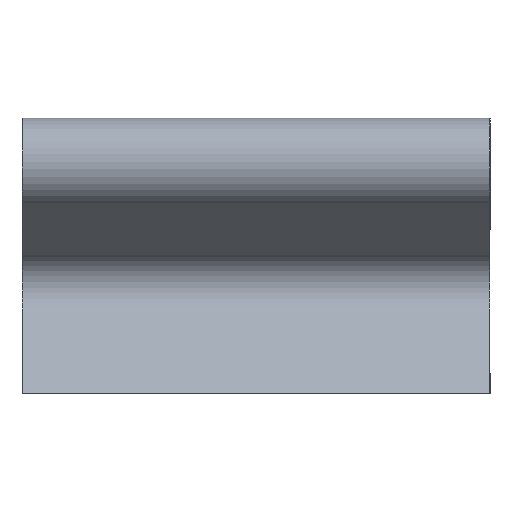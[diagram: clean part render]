
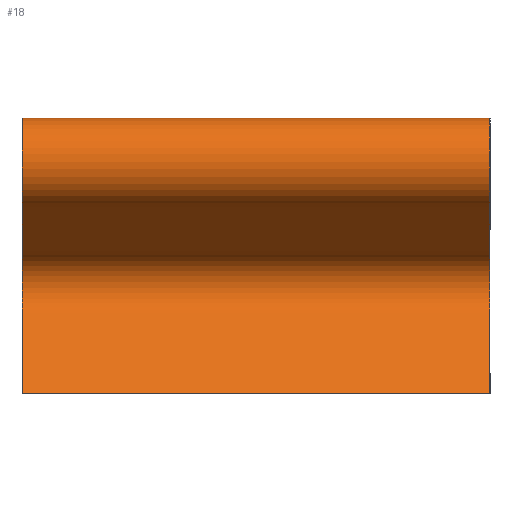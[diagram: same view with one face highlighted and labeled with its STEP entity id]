
A CAD part, left-side view. The second image highlights one B-rep face of the part: STEP entity #18.
In plain terms, the highlighted free-form (B-spline) face has degree [1, 2] with [2, 27] control points.
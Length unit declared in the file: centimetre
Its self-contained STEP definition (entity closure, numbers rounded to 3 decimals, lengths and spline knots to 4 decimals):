
#18=ADVANCED_FACE($,(#25),#91,.T.);
#25=FACE_OUTER_BOUND($,#32,.T.);
#32=EDGE_LOOP($,(#53,#54,#55,#56));
#53=ORIENTED_EDGE($,*,*,#70,.T.);
#54=ORIENTED_EDGE($,*,*,#77,.T.);
#55=ORIENTED_EDGE($,*,*,#74,.F.);
#56=ORIENTED_EDGE($,*,*,#78,.F.);
#70=EDGE_CURVE($,#84,#83,#109,.T.);
#74=EDGE_CURVE($,#88,#87,#111,.T.);
#77=EDGE_CURVE($,#83,#87,#103,.T.);
#78=EDGE_CURVE($,#84,#88,#104,.T.);
#83=VERTEX_POINT($,#459);
#84=VERTEX_POINT($,#460);
#87=VERTEX_POINT($,#463);
#88=VERTEX_POINT($,#464);
#91=(
BOUNDED_SURFACE()
B_SPLINE_SURFACE(1,2,((#371,#372,#373,#374,#375,#376,#377,#378,#379,#380,
#381,#382,#383,#384,#385,#386,#387,#388,#389,#390,#391,#392,#393,#394,#395,
#396,#397),(#398,#399,#400,#401,#402,#403,#404,#405,#406,#407,#408,#409,
#410,#411,#412,#413,#414,#415,#416,#417,#418,#419,#420,#421,#422,#423,#424)),
.UNSPECIFIED.,.F.,.F.,.F.)
B_SPLINE_SURFACE_WITH_KNOTS((2,2),(3,2,2,2,2,2,2,2,2,2,2,2,2,3),(0.,68.),
(-399.8258,-383.4348,-378.3951,-373.3555,
-358.8252,-351.6257,-344.4262,-227.8613,
-220.6618,-213.4623,-198.932,-193.8923,-188.8527,
-172.4616),.UNSPECIFIED.)
GEOMETRIC_REPRESENTATION_ITEM()
RATIONAL_B_SPLINE_SURFACE(((1.,1.,1.,0.897,1.,0.897,
1.,1.,1.,0.793,1.,0.793,1.,1.,1.,0.793,
1.,0.793,1.,1.,1.,0.897,1.,0.897,1.,1.,
1.),(1.,1.,1.,0.897,1.,0.897,1.,1.,1.,0.793,
1.,0.793,1.,1.,1.,0.793,1.,0.793,1.,1.,
1.,0.897,1.,0.897,1.,1.,1.)))
REPRESENTATION_ITEM($)
SURFACE()
);
#103=B_SPLINE_CURVE_WITH_KNOTS($,1,(#336,#337),.UNSPECIFIED.,.F.,.F.,(2,
2),(0.,68.),.UNSPECIFIED.);
#104=B_SPLINE_CURVE_WITH_KNOTS($,1,(#338,#339),.UNSPECIFIED.,.F.,.F.,(2,
2),(0.,68.),.UNSPECIFIED.);
#109=(
BOUNDED_CURVE()
B_SPLINE_CURVE(2,(#261,#262,#263,#264,#265,#266,#267,#268,#269,#270,#271,
#272,#273,#274,#275,#276,#277,#278,#279,#280,#281,#282,#283,#284,#285,#286,
#287),.UNSPECIFIED.,.F.,.F.)
B_SPLINE_CURVE_WITH_KNOTS((3,2,2,2,2,2,2,2,2,2,2,2,2,3),(172.4616,
188.8527,193.8923,198.932,213.4623,220.6618,
227.8613,344.4262,351.6257,358.8252,373.3555,
378.3951,383.4348,399.8258),.UNSPECIFIED.)
CURVE()
GEOMETRIC_REPRESENTATION_ITEM()
RATIONAL_B_SPLINE_CURVE((1.,1.,1.,0.897,1.,0.897,
1.,1.,1.,0.793,1.,0.793,1.,1.,1.,0.793,
1.,0.793,1.,1.,1.,0.897,1.,0.897,1.,1.,
1.))
REPRESENTATION_ITEM($)
);
#111=(
BOUNDED_CURVE()
B_SPLINE_CURVE(2,(#305,#306,#307,#308,#309,#310,#311,#312,#313,#314,#315,
#316,#317,#318,#319,#320,#321,#322,#323,#324,#325,#326,#327,#328,#329,#330,
#331),.UNSPECIFIED.,.F.,.F.)
B_SPLINE_CURVE_WITH_KNOTS((3,2,2,2,2,2,2,2,2,2,2,2,2,3),(172.4616,
188.8527,193.8923,198.932,213.4623,220.6618,
227.8613,344.4262,351.6257,358.8252,373.3555,
378.3951,383.4348,399.8258),.UNSPECIFIED.)
CURVE()
GEOMETRIC_REPRESENTATION_ITEM()
RATIONAL_B_SPLINE_CURVE((1.,1.,1.,0.897,1.,0.897,
1.,1.,1.,0.793,1.,0.793,1.,1.,1.,0.793,
1.,0.793,1.,1.,1.,0.897,1.,0.897,1.,1.,
1.))
REPRESENTATION_ITEM($)
);
#261=CARTESIAN_POINT($,(5.5,0.,0.));
#262=CARTESIAN_POINT($,(11.2951,0.,5.7951));
#263=CARTESIAN_POINT($,(17.0902,0.,11.5902));
#264=CARTESIAN_POINT($,(19.0081,0.,13.5081));
#265=CARTESIAN_POINT($,(18.6541,0.,16.1972));
#266=CARTESIAN_POINT($,(18.3001,0.,18.8863));
#267=CARTESIAN_POINT($,(15.9512,0.,20.2425));
#268=CARTESIAN_POINT($,(9.6593,0.,23.8751));
#269=CARTESIAN_POINT($,(3.3675,0.,27.5076));
#270=CARTESIAN_POINT($,(-1.0848,0.,30.0782));
#271=CARTESIAN_POINT($,(0.2458,0.,35.0441));
#272=CARTESIAN_POINT($,(1.5764,0.,40.01));
#273=CARTESIAN_POINT($,(6.7175,0.,40.01));
#274=CARTESIAN_POINT($,(65.,0.,40.01));
#275=CARTESIAN_POINT($,(123.2825,0.,40.01));
#276=CARTESIAN_POINT($,(128.4236,0.,40.01));
#277=CARTESIAN_POINT($,(129.7542,0.,35.0441));
#278=CARTESIAN_POINT($,(131.0848,0.,30.0782));
#279=CARTESIAN_POINT($,(126.6325,0.,27.5076));
#280=CARTESIAN_POINT($,(120.3407,0.,23.8751));
#281=CARTESIAN_POINT($,(114.0488,0.,20.2425));
#282=CARTESIAN_POINT($,(111.6999,0.,18.8863));
#283=CARTESIAN_POINT($,(111.3459,0.,16.1972));
#284=CARTESIAN_POINT($,(110.9919,0.,13.5081));
#285=CARTESIAN_POINT($,(112.9098,0.,11.5902));
#286=CARTESIAN_POINT($,(118.7049,0.,5.7951));
#287=CARTESIAN_POINT($,(124.5,0.,0.));
#305=CARTESIAN_POINT($,(5.5,68.,0.));
#306=CARTESIAN_POINT($,(11.2951,68.,5.7951));
#307=CARTESIAN_POINT($,(17.0902,68.,11.5902));
#308=CARTESIAN_POINT($,(19.0081,68.,13.5081));
#309=CARTESIAN_POINT($,(18.6541,68.,16.1972));
#310=CARTESIAN_POINT($,(18.3001,68.,18.8863));
#311=CARTESIAN_POINT($,(15.9512,68.,20.2425));
#312=CARTESIAN_POINT($,(9.6593,68.,23.8751));
#313=CARTESIAN_POINT($,(3.3675,68.,27.5076));
#314=CARTESIAN_POINT($,(-1.0848,68.,30.0782));
#315=CARTESIAN_POINT($,(0.2458,68.,35.0441));
#316=CARTESIAN_POINT($,(1.5764,68.,40.01));
#317=CARTESIAN_POINT($,(6.7175,68.,40.01));
#318=CARTESIAN_POINT($,(65.,68.,40.01));
#319=CARTESIAN_POINT($,(123.2825,68.,40.01));
#320=CARTESIAN_POINT($,(128.4236,68.,40.01));
#321=CARTESIAN_POINT($,(129.7542,68.,35.0441));
#322=CARTESIAN_POINT($,(131.0848,68.,30.0782));
#323=CARTESIAN_POINT($,(126.6325,68.,27.5076));
#324=CARTESIAN_POINT($,(120.3407,68.,23.8751));
#325=CARTESIAN_POINT($,(114.0488,68.,20.2425));
#326=CARTESIAN_POINT($,(111.6999,68.,18.8863));
#327=CARTESIAN_POINT($,(111.3459,68.,16.1972));
#328=CARTESIAN_POINT($,(110.9919,68.,13.5081));
#329=CARTESIAN_POINT($,(112.9098,68.,11.5902));
#330=CARTESIAN_POINT($,(118.7049,68.,5.7951));
#331=CARTESIAN_POINT($,(124.5,68.,0.));
#336=CARTESIAN_POINT($,(124.5,0.,0.));
#337=CARTESIAN_POINT($,(124.5,68.,0.));
#338=CARTESIAN_POINT($,(5.5,0.,0.));
#339=CARTESIAN_POINT($,(5.5,68.,0.));
#371=CARTESIAN_POINT($,(124.5,0.,0.));
#372=CARTESIAN_POINT($,(118.7049,0.,5.7951));
#373=CARTESIAN_POINT($,(112.9098,0.,11.5902));
#374=CARTESIAN_POINT($,(110.9919,0.,13.5081));
#375=CARTESIAN_POINT($,(111.3459,0.,16.1972));
#376=CARTESIAN_POINT($,(111.6999,0.,18.8863));
#377=CARTESIAN_POINT($,(114.0488,0.,20.2425));
#378=CARTESIAN_POINT($,(120.3407,0.,23.8751));
#379=CARTESIAN_POINT($,(126.6325,0.,27.5076));
#380=CARTESIAN_POINT($,(131.0848,0.,30.0782));
#381=CARTESIAN_POINT($,(129.7542,0.,35.0441));
#382=CARTESIAN_POINT($,(128.4236,0.,40.01));
#383=CARTESIAN_POINT($,(123.2825,0.,40.01));
#384=CARTESIAN_POINT($,(65.,0.,40.01));
#385=CARTESIAN_POINT($,(6.7175,0.,40.01));
#386=CARTESIAN_POINT($,(1.5764,0.,40.01));
#387=CARTESIAN_POINT($,(0.2458,0.,35.0441));
#388=CARTESIAN_POINT($,(-1.0848,0.,30.0782));
#389=CARTESIAN_POINT($,(3.3675,0.,27.5076));
#390=CARTESIAN_POINT($,(9.6593,0.,23.8751));
#391=CARTESIAN_POINT($,(15.9512,0.,20.2425));
#392=CARTESIAN_POINT($,(18.3001,0.,18.8863));
#393=CARTESIAN_POINT($,(18.6541,0.,16.1972));
#394=CARTESIAN_POINT($,(19.0081,0.,13.5081));
#395=CARTESIAN_POINT($,(17.0902,0.,11.5902));
#396=CARTESIAN_POINT($,(11.2951,0.,5.7951));
#397=CARTESIAN_POINT($,(5.5,0.,0.));
#398=CARTESIAN_POINT($,(124.5,68.,0.));
#399=CARTESIAN_POINT($,(118.7049,68.,5.7951));
#400=CARTESIAN_POINT($,(112.9098,68.,11.5902));
#401=CARTESIAN_POINT($,(110.9919,68.,13.5081));
#402=CARTESIAN_POINT($,(111.3459,68.,16.1972));
#403=CARTESIAN_POINT($,(111.6999,68.,18.8863));
#404=CARTESIAN_POINT($,(114.0488,68.,20.2425));
#405=CARTESIAN_POINT($,(120.3407,68.,23.8751));
#406=CARTESIAN_POINT($,(126.6325,68.,27.5076));
#407=CARTESIAN_POINT($,(131.0848,68.,30.0782));
#408=CARTESIAN_POINT($,(129.7542,68.,35.0441));
#409=CARTESIAN_POINT($,(128.4236,68.,40.01));
#410=CARTESIAN_POINT($,(123.2825,68.,40.01));
#411=CARTESIAN_POINT($,(65.,68.,40.01));
#412=CARTESIAN_POINT($,(6.7175,68.,40.01));
#413=CARTESIAN_POINT($,(1.5764,68.,40.01));
#414=CARTESIAN_POINT($,(0.2458,68.,35.0441));
#415=CARTESIAN_POINT($,(-1.0848,68.,30.0782));
#416=CARTESIAN_POINT($,(3.3675,68.,27.5076));
#417=CARTESIAN_POINT($,(9.6593,68.,23.8751));
#418=CARTESIAN_POINT($,(15.9512,68.,20.2425));
#419=CARTESIAN_POINT($,(18.3001,68.,18.8863));
#420=CARTESIAN_POINT($,(18.6541,68.,16.1972));
#421=CARTESIAN_POINT($,(19.0081,68.,13.5081));
#422=CARTESIAN_POINT($,(17.0902,68.,11.5902));
#423=CARTESIAN_POINT($,(11.2951,68.,5.7951));
#424=CARTESIAN_POINT($,(5.5,68.,0.));
#459=CARTESIAN_POINT($,(124.5,0.,0.));
#460=CARTESIAN_POINT($,(5.5,0.,0.));
#463=CARTESIAN_POINT($,(124.5,68.,0.));
#464=CARTESIAN_POINT($,(5.5,68.,0.));
